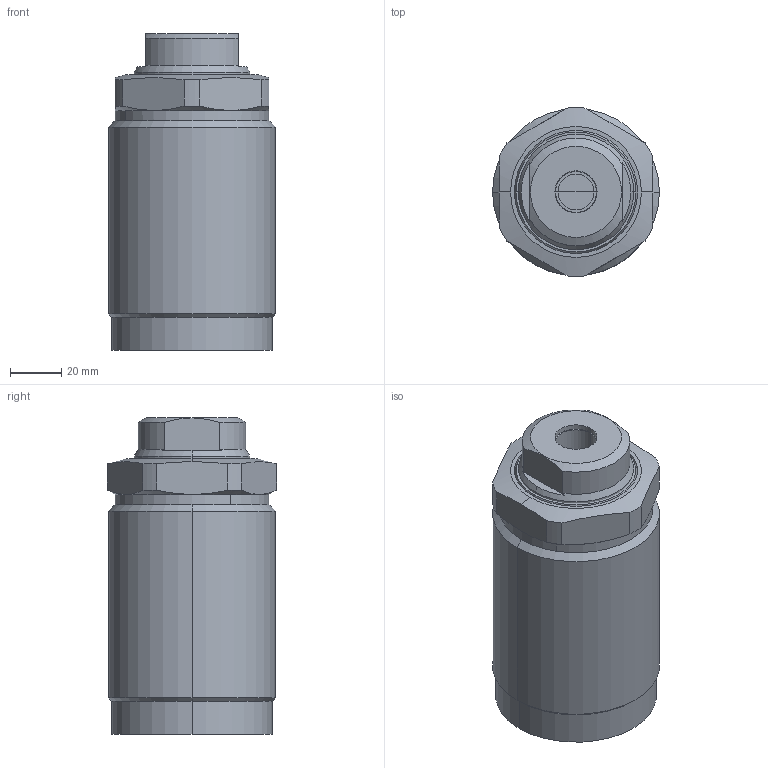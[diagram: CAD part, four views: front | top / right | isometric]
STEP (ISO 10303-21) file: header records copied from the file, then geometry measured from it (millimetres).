
FILE_DESCRIPTION((' '),'2;1');
FILE_NAME( 'TGP65-AL.x_t.stp', '2025-02-10T16:03:58', (' '), ('--- Datakit www.datakit.com---'), ' Datakit CrossCadWare V2024.1 Dec 21 2023', 'Mastercam 2025', ' ');
FILE_SCHEMA(('AUTOMOTIVE_DESIGN { 1 0 10303 214 1 1 1 1 }'));
Length unit declared in the file: millimetre
Products named in the file (1): TGP65-AL
Bounding box: 65 x 65.97 x 123.5 mm (x, y, z)
Volume: 421918.4 mm3; surface area: 41395.4 mm2
Topology: 2 solids, 2 shells, 83 faces, 204 edges, 128 vertices
Faces by surface type: cylinder 32, cone 28, plane 19, torus 4
Entity records: 2598 total; most frequent: CARTESIAN_POINT 596, DIRECTION 442, ORIENTED_EDGE 400, EDGE_CURVE 200, AXIS2_PLACEMENT_3D 186, VERTEX_POINT 128, CIRCLE 102, EDGE_LOOP 90
